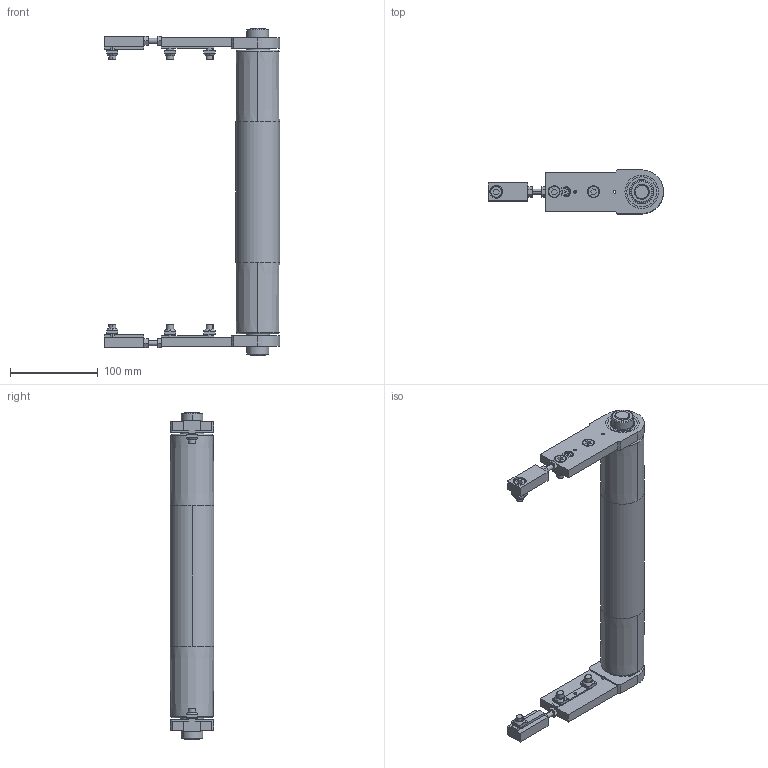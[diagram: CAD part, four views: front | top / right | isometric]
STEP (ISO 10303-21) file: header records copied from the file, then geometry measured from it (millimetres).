
FILE_DESCRIPTION (( 'STEP AP203' ), '1' );
FILE_NAME ('084.050.KIC.300.STEP', '2019-07-29T10:24:54', ( '' ), ( '' ), 'SwSTEP 2.0', 'SolidWorks 2018', '' );
FILE_SCHEMA (( 'CONFIG_CONTROL_DESIGN' ));
Length unit declared in the file: millimetre
Products named in the file (9): 084.802.017_084.802.017; 084.815.105_Default<A macchina>; 084.811.004; 084.810.001; 084.807.004_084.807.004; 084.301.000 VITI ALUSIC_084.301.003; 084.050.KIC.300; 084.802.008; 084.302.000 DADI ALUSIC 13x13_084.302.004
Assembly tree (23 placements, depth 2):
  084.050.KIC.300
    084.807.004_084.807.004  x2
    084.802.017_084.802.017  x2
    084.811.004  x2
    084.815.105_Default<A macchina>
    084.810.001  x2
    084.802.008  x2
    084.301.000 VITI ALUSIC_084.301.003  x6
    084.302.000 DADI ALUSIC 13x13_084.302.004  x6
Bounding box: 200 x 50 x 374 mm (x, y, z)
Volume: 420030.7 mm3; surface area: 250823.9 mm2
Topology: 29 solids, 31 shells, 758 faces, 1890 edges, 1228 vertices
Faces by surface type: plane 350, cylinder 218, torus 76, cone 60, bspline 46, sphere 8
Entity records: 12534 total; most frequent: CARTESIAN_POINT 2408, DIRECTION 1913, ORIENTED_EDGE 1782, EDGE_CURVE 891, AXIS2_PLACEMENT_3D 736, VERTEX_POINT 583, LINE 441, VECTOR 441
